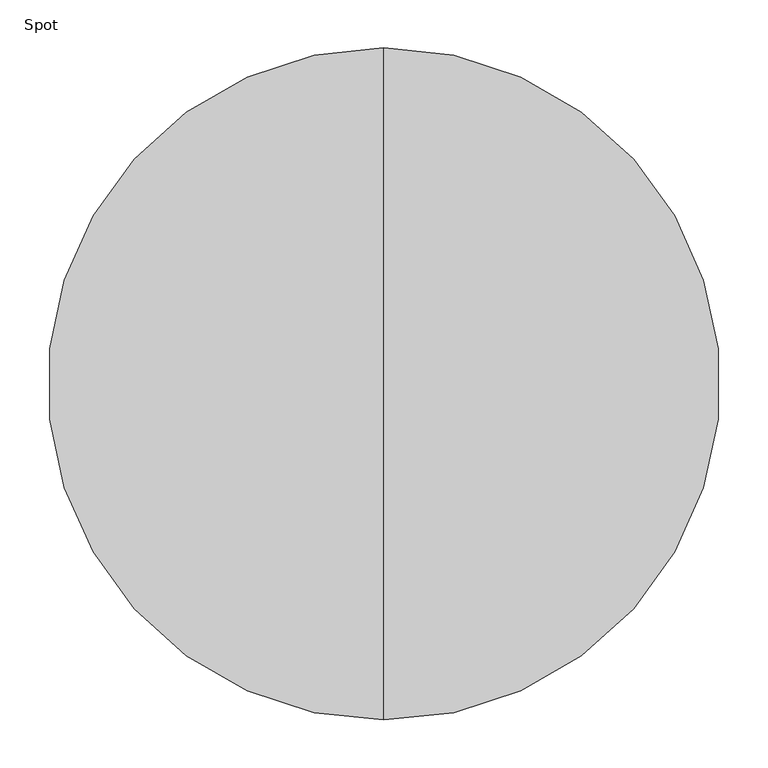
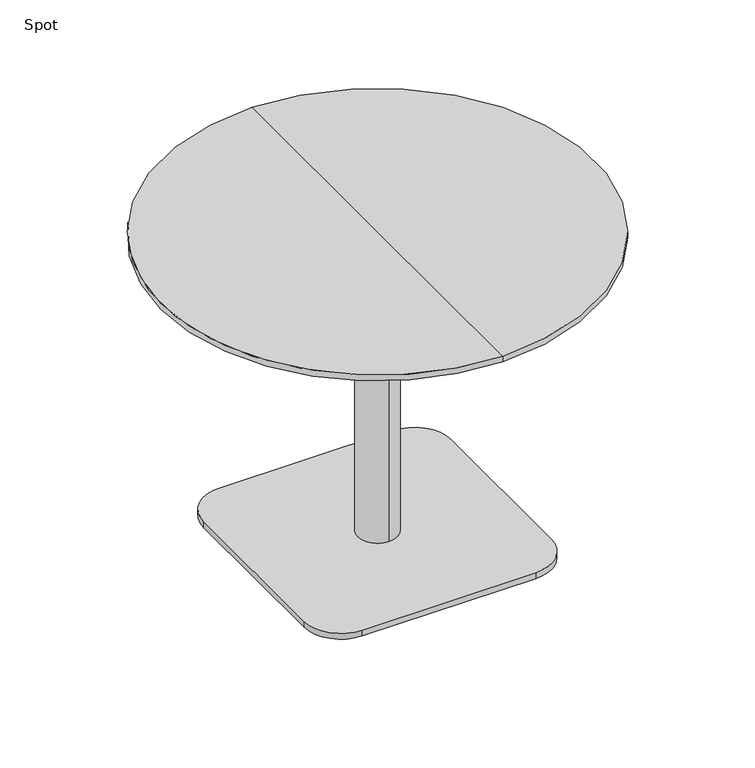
"""IFC4 building model written with IfcOpenShell, lengths in millimetres: furniture geometry, Spot : ø70x52s."""

from ifc_helpers import new_model, si_unit, point, frame, frame_2d, origin, origin_with_axes, place, context, project, spatial, polyline, circle_curve, trimmed, segment, composite_curve, outline, extrude, source, transform, mapped, element, save
from ifc_brep_helpers import plane_surface, cylinder_surface, revolved_surface, advanced_brep


def spot_dde6724e(model_context):
    return source(origin(), model_context, "Body", "SolidModel", [
        advanced_brep(
        [(0.0, -350.0, 520.0), (0.0, 350.0, 520.0), (0.0, 0.0, 520.0), (0.0, 350.0, 510.25), (0.0, -350.0, 510.25), (0.0, 0.0, 498.0), (0.0, -304.2823776, 498.0), (0.0, 304.2823776, 498.0)],
        [
            (0, 1, circle_curve(frame((0.0, 0.0, 520.0), z_axis=(0.0, 0.0, 1.0), x_axis=(0.0, -1.0, 0.0)), 350.0)),
            (1, 2),
            (2, 0),
            (3, 4, circle_curve(frame((0.0, 0.0, 510.25), z_axis=(0.0, 0.0, 1.0), x_axis=(0.0, -1.0, 0.0)), 350.0)),
            (4, 0),
            (0, 1, circle_curve(frame((0.0, 0.0, 520.0), z_axis=(0.0, 0.0, -1.0), x_axis=(0.0, -1.0, 0.0)), 350.0)),
            (1, 3),
            (5, 6),
            (6, 7, circle_curve(frame((0.0, 0.0, 498.0), z_axis=(0.0, 0.0, -1.0), x_axis=(0.0, -1.0, 0.0)), 304.2823776)),
            (7, 5),
            (7, 6, circle_curve(frame((0.0, 0.0, 498.0), z_axis=(0.0, 0.0, -1.0), x_axis=(0.0, -1.0, 0.0)), 304.2823776)),
            (4, 3, circle_curve(frame((0.0, 0.0, 510.25), z_axis=(0.0, 0.0, 1.0), x_axis=(0.0, -1.0, 0.0)), 350.0)),
            (6, 4),
            (3, 7),
        ],
        [
            plane_surface(frame((0.0, 0.0, 520.0), z_axis=(0.0, 0.0, 1.0), x_axis=(0.0, -1.0, 0.0))),
            cylinder_surface(frame((0.0, 0.0, 600.0), z_axis=(0.0, 0.0, -1.0), x_axis=(0.0, -1.0, 0.0)), 350.0),
            plane_surface(frame((0.0, 0.0, 498.0), z_axis=(0.0, 0.0, -1.0), x_axis=(0.0, -1.0, 0.0))),
            revolved_surface(polyline([(0.0, -350.0, 510.25), (0.0, -304.2823776, 498.0)]), (0.0, 0.0, 600.0), (0.0, 0.0, -1.0)),
        ],
        [
            (0, [[1, 2, 3]]),
            (1, [[4, 5, 6, 7]]),
            (2, [[8, 9, 10]]),
            (2, [[-10, 11, -8]]),
            (0, [[-6, -3, -2]]),
            (1, [[12, -7, -1, -5]]),
            (3, [[-9, 13, -4, 14]]),
            (3, [[-11, -14, -12, -13]]),
        ],
    ),
        extrude(outline(composite_curve([segment(trimmed(circle_curve(frame_2d((140.0, 140.0)), 60.0), [point((140.0, 200.0))], [point((200.0, 140.0))], False, "CARTESIAN"), True, "CONTINUOUS"), segment(polyline([(200.0, 140.0), (200.0, -140.0)]), True, "CONTINUOUS"), segment(trimmed(circle_curve(frame_2d((140.0, -140.0)), 60.0), [point((200.0, -140.0))], [point((140.0, -200.0))], False, "CARTESIAN"), True, "CONTINUOUS"), segment(polyline([(140.0, -200.0), (-140.0, -200.0)]), True, "CONTINUOUS"), segment(trimmed(circle_curve(frame_2d((-140.0, -140.0)), 60.0), [point((-140.0, -200.0))], [point((-200.0, -140.0))], False, "CARTESIAN"), True, "CONTINUOUS"), segment(polyline([(-200.0, -140.0), (-200.0, 140.0)]), True, "CONTINUOUS"), segment(trimmed(circle_curve(frame_2d((-140.0, 140.0)), 60.0), [point((-200.0, 140.0))], [point((-140.0, 200.0))], False, "CARTESIAN"), True, "CONTINUOUS"), segment(polyline([(-140.0, 200.0), (140.0, 200.0)]), True, "CONTINUOUS")], self_intersect=False)), origin_with_axes(), (0.0, 0.0, 1.0), 10.0),
        advanced_brep(
        [(0.0, 32.0, 10.0), (0.0, -32.0, 10.0), (0.0, -32.0, 467.406916), (0.0, 32.0, 467.406916), (0.0, 0.0, 10.0), (0.0, 150.0, 498.0), (0.0, -150.0, 498.0), (0.0, 0.0, 498.0), (0.0, 150.0, 486.7213673), (0.0, -150.0, 486.7213673)],
        [
            (0, 1, circle_curve(frame((0.0, 0.0, 10.0), z_axis=(0.0, 0.0, 1.0), x_axis=(0.0, -1.0, 0.0)), 32.0)),
            (1, 2),
            (2, 3, circle_curve(frame((0.0, 0.0, 467.406916), z_axis=(0.0, 0.0, -1.0), x_axis=(0.0, -1.0, 0.0)), 32.0)),
            (3, 0),
            (1, 0, circle_curve(frame((0.0, 0.0, 10.0), z_axis=(0.0, 0.0, 1.0), x_axis=(0.0, -1.0, 0.0)), 32.0)),
            (3, 2, circle_curve(frame((0.0, 0.0, 467.406916), z_axis=(0.0, 0.0, -1.0), x_axis=(0.0, -1.0, 0.0)), 32.0)),
            (4, 1),
            (0, 4),
            (5, 6, circle_curve(frame((0.0, 0.0, 498.0), z_axis=(0.0, 0.0, 1.0), x_axis=(0.0, -1.0, 0.0)), 150.0)),
            (6, 7),
            (7, 5),
            (6, 5, circle_curve(frame((0.0, 0.0, 498.0), z_axis=(0.0, 0.0, 1.0), x_axis=(0.0, -1.0, 0.0)), 150.0)),
            (8, 9, circle_curve(frame((0.0, 0.0, 486.7213673), z_axis=(0.0, 0.0, 1.0), x_axis=(0.0, -1.0, 0.0)), 150.0)),
            (9, 6),
            (5, 8),
            (9, 8, circle_curve(frame((0.0, 0.0, 486.7213673), z_axis=(0.0, 0.0, 1.0), x_axis=(0.0, -1.0, 0.0)), 150.0)),
            (2, 9),
            (8, 3),
        ],
        [
            cylinder_surface(frame((0.0, 0.0, 860.0), z_axis=(0.0, 0.0, -1.0), x_axis=(0.0, -1.0, 0.0)), 32.0),
            plane_surface(frame((0.0, 0.0, 10.0), z_axis=(0.0, 0.0, -1.0), x_axis=(0.0, -1.0, 0.0))),
            plane_surface(frame((0.0, 0.0, 498.0), z_axis=(0.0, 0.0, 1.0), x_axis=(0.0, -1.0, 0.0))),
            cylinder_surface(frame((0.0, 0.0, 860.0), z_axis=(0.0, 0.0, -1.0), x_axis=(0.0, -1.0, 0.0)), 150.0),
            revolved_surface(polyline([(0.0, -150.0, 486.7213673), (0.0, -32.0, 467.406916)]), (0.0, 0.0, 860.0), (0.0, 0.0, -1.0)),
        ],
        [
            (0, [[1, 2, 3, 4]]),
            (0, [[5, -4, 6, -2]]),
            (1, [[7, -1, 8]]),
            (1, [[-8, -5, -7]]),
            (2, [[9, 10, 11]]),
            (2, [[12, -11, -10]]),
            (3, [[13, 14, -9, 15]]),
            (3, [[16, -15, -12, -14]]),
            (4, [[-3, 17, -13, 18]]),
            (4, [[-6, -18, -16, -17]]),
        ],
    ),
        extrude(outline(polyline([(0.0, 0.0), (-20.0, 0.0), (-20.0, 20.0), (0.0, 20.0), (0.0, 0.0)])), origin_with_axes(), (0.0, 0.0, 1.0), 10.0),
    ])


if __name__ == "__main__":
    model = new_model("IFC4")
    model_context = context("Model", 3, world=origin())
    ifc_project = project(units=[si_unit("LENGTHUNIT", "METRE", prefix="MILLI")], contexts=[model_context])
    site = spatial("IfcSite", under=ifc_project)
    building = spatial("IfcBuilding", under=site)
    placement = place(None, origin())
    spot_shape = spot_dde6724e(model_context)
    element("IfcFurniture", 1, ObjectType="Spot : ø70x52s", at=placement, inside=building, context=model_context, shape_type="MappedRepresentation", body=[
        mapped(spot_shape, transform((0.0, 0.0, 0.0), x_axis=(1.0, 0.0, 0.0), y_axis=(0.0, 1.0, 0.0), z_axis=(0.0, 0.0, 1.0))),
    ])
    save(model, "model.ifc")
